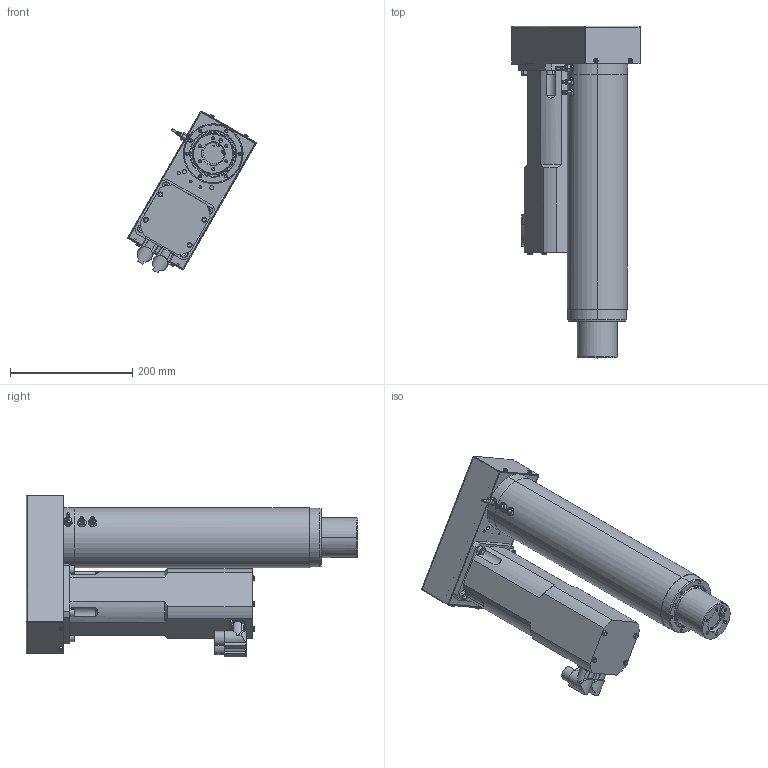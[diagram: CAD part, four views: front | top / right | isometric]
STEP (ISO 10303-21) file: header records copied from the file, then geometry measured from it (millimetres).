
FILE_DESCRIPTION (( 'STEP AP214' ), '1' );
FILE_NAME ('RLWPK010D-020-030HG0.STEP', '2023-04-06T07:28:00', ( '' ), ( '' ), 'SwSTEP 2.0', 'SolidWorks 2021', '' );
FILE_SCHEMA (( 'AUTOMOTIVE_DESIGN' ));
Length unit declared in the file: millimetre
Products named in the file (1): RLWPK010D-020-030HG0
Bounding box: 210.88 x 544 x 265.47 mm (x, y, z)
Volume: 5448300.4 mm3; surface area: 735151.1 mm2
Topology: 24 solids, 24 shells, 932 faces, 2220 edges, 1351 vertices
Faces by surface type: cylinder 395, plane 328, cone 155, torus 46, bspline 6, sphere 2
Entity records: 38588 total; most frequent: CARTESIAN_POINT 6181, DIRECTION 4864, ORIENTED_EDGE 4272, EDGE_CURVE 2136, AXIS2_PLACEMENT_3D 1909, VERTEX_POINT 1351, EDGE_LOOP 1129, LINE 1046
